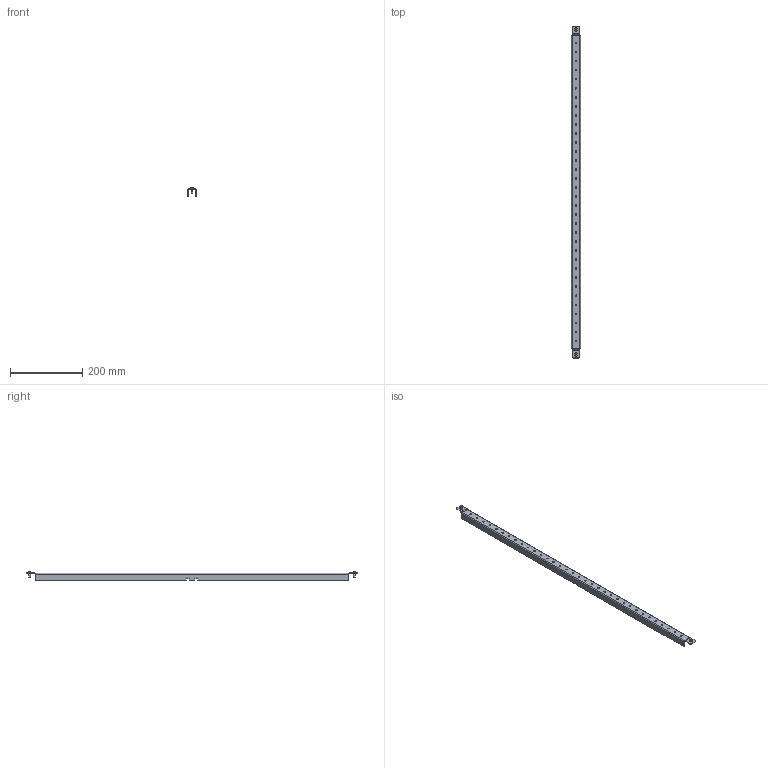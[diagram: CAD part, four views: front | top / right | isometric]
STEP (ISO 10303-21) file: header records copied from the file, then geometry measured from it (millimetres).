
FILE_DESCRIPTION (( 'STEP AP203' ), '1' );
FILE_NAME ('R6PH10.step', '2025-07-11T09:16:24', ( '' ), ( '' ), 'SwSTEP 2.0', 'SolidWorks 2022', '' );
FILE_SCHEMA (( 'CONFIG_CONTROL_DESIGN' ));
Length unit declared in the file: millimetre
Products named in the file (3): RB.3324.00.00.0; R6PH10; M5x12 DIN 7500 C Torx Zinc_stright
Assembly tree (3 placements, depth 2):
  R6PH10
    RB.3324.00.00.0
    M5x12 DIN 7500 C Torx Zinc_stright  x2
Bounding box: 25 x 920 x 24.55 mm (x, y, z)
Volume: 79433.2 mm3; surface area: 109358 mm2
Topology: 3 solids, 3 shells, 152 faces, 366 edges, 222 vertices
Faces by surface type: plane 78, cylinder 62, torus 4, cone 4, sphere 2, bspline 2
Full cylindrical faces by diameter (mm): 4.2 x34, 5 x2, 9.5 x2
Entity records: 4429 total; most frequent: CARTESIAN_POINT 840, DIRECTION 696, ORIENTED_EDGE 584, EDGE_CURVE 292, AXIS2_PLACEMENT_3D 270, EDGE_LOOP 250, VERTEX_POINT 202, FACE_OUTER_BOUND 176
